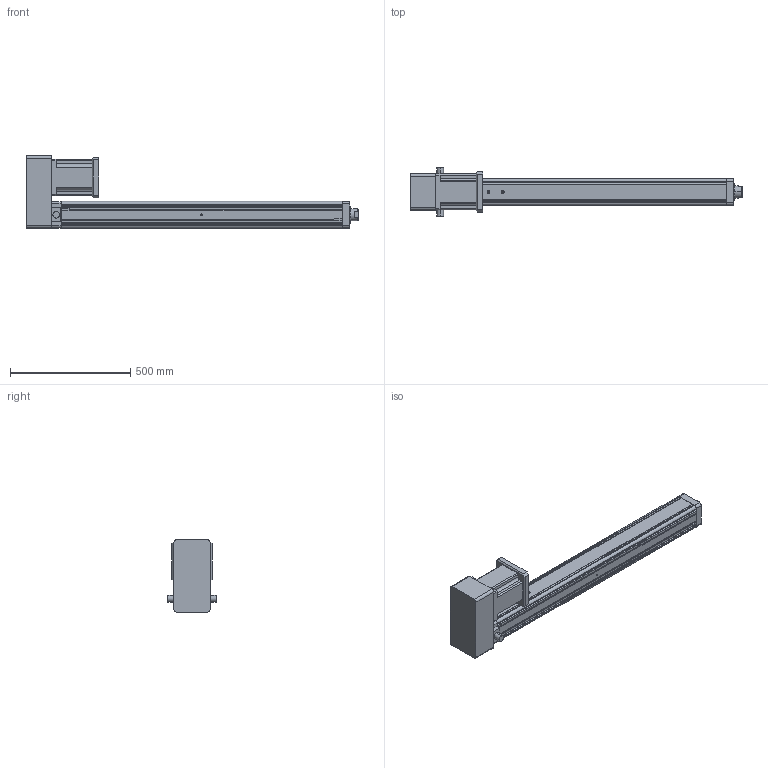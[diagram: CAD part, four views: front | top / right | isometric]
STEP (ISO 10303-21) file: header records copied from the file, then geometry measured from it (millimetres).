
FILE_DESCRIPTION (( 'STEP AP203' ), '1' );
FILE_NAME ('YRJ110-L1000-H4K2.STEP', '2020-01-06T01:17:19', ( 'User' ), ( 'China' ), 'SwSTEP 2.0', 'SolidWorks 2016', '' );
FILE_SCHEMA (( 'CONFIG_CONTROL_DESIGN' ));
Length unit declared in the file: millimetre
Products named in the file (7): 142熬厒儂; H5-110-2; 095-100俴最倰第; H5-110-1; K2-110; 萇儂碟-110; YRJ110-L1000-H4K2
Assembly tree (6 placements, depth 2):
  YRJ110-L1000-H4K2
    095-100俴最倰第
    142熬厒儂
    H5-110-1
    H5-110-2
    萇儂碟-110
    K2-110
Bounding box: 1381 x 200 x 300.5 mm (x, y, z)
Volume: 14565440.7 mm3; surface area: 1493761.7 mm2
Topology: 6 solids, 6 shells, 311 faces, 850 edges, 549 vertices
Faces by surface type: plane 174, cylinder 110, cone 27
Entity records: 10800 total; most frequent: CARTESIAN_POINT 2043, DIRECTION 1687, ORIENTED_EDGE 1668, EDGE_CURVE 834, VECTOR 577, LINE 577, AXIS2_PLACEMENT_3D 555, VERTEX_POINT 549
